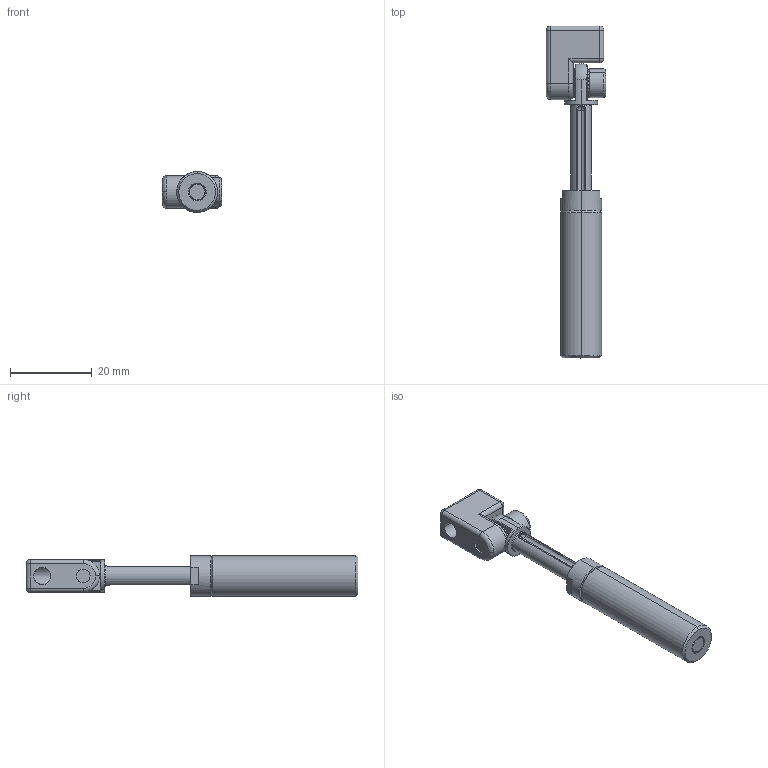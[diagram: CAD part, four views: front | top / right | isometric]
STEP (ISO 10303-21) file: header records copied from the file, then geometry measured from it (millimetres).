
FILE_DESCRIPTION (( 'STEP AP214' ), '1' );
FILE_NAME ('VFE1021-M5.STEP', '2023-03-09T02:17:06', ( 'Windows User' ), ( 'P R C' ), 'SwSTEP 2.0', 'SolidWorks 2019', '' );
FILE_SCHEMA (( 'AUTOMOTIVE_DESIGN' ));
Length unit declared in the file: millimetre
Products named in the file (7): VFE-M5籵蚚柲蜇芛; VFE1021-M5; 2.Y01799; hexagon socket head cap screws gb_GB_FASTENER_SCREWS_HSHCS M4X10-C; VFN1021-M5掛极; PTS-M4; VFET1021-M5粣裝
Assembly tree (7 placements, depth 2):
  VFE1021-M5
    VFE-M5籵蚚柲蜇芛
    VFET1021-M5粣裝
    2.Y01799
    hexagon socket head cap screws gb_GB_FASTENER_SCREWS_HSHCS M4X10-C
    VFN1021-M5掛极
    PTS-M4  x2
Bounding box: 14.45 x 81.2 x 10 mm (x, y, z)
Volume: 4968.7 mm3; surface area: 4993.2 mm2
Topology: 7 solids, 7 shells, 578 faces, 1623 edges, 1046 vertices
Faces by surface type: plane 431, cylinder 68, cone 49, sphere 16, torus 10, bspline 4
Entity records: 13902 total; most frequent: CARTESIAN_POINT 3795, DIRECTION 2106, ORIENTED_EDGE 2046, EDGE_CURVE 1023, AXIS2_PLACEMENT_3D 777, VERTEX_POINT 654, VECTOR 552, LINE 552
